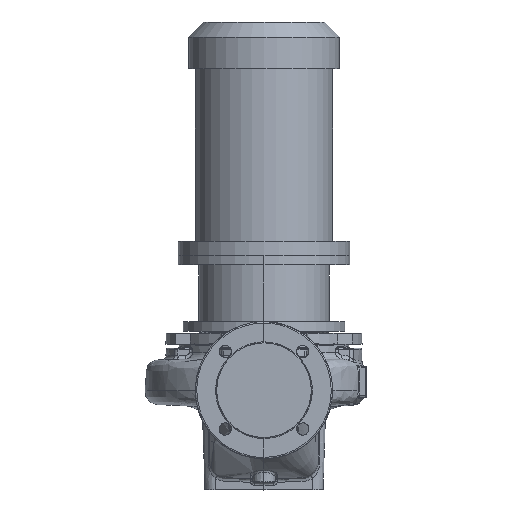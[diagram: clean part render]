
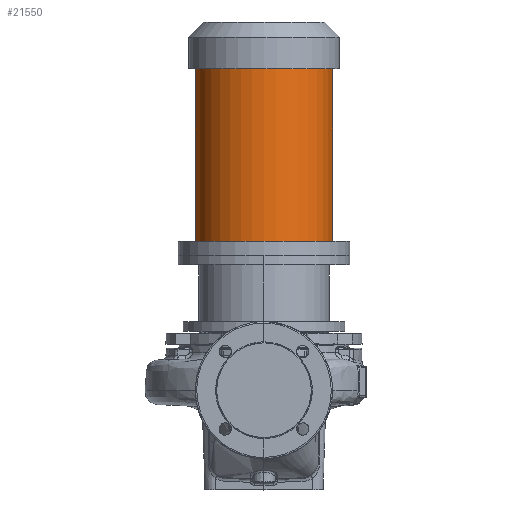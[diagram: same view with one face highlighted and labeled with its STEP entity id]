
A CAD part, top view. The second image highlights one B-rep face of the part: STEP entity #21550.
In plain terms, the highlighted cylindrical face has radius 100 mm (diameter 200 mm), a partial arc.
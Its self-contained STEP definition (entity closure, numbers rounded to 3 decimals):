
#90 = DIRECTION ( 'NONE',  ( -1., 0., 0. ) ) ;
#3658 = VERTEX_POINT ( 'NONE', #43290 ) ;
#5210 = ORIENTED_EDGE ( 'NONE', *, *, #49756, .F. ) ;
#5438 = CARTESIAN_POINT ( 'NONE',  ( 0., 197.3, 0. ) ) ;
#6033 = VECTOR ( 'NONE', #11947, 1000. ) ;
#6648 = AXIS2_PLACEMENT_3D ( 'NONE', #55923, #22026, #90 ) ;
#10351 = DIRECTION ( 'NONE',  ( 0., -1., 0. ) ) ;
#11947 = DIRECTION ( 'NONE',  ( 0., -1., 0. ) ) ;
#12264 = VERTEX_POINT ( 'NONE', #69945 ) ;
#13270 = ORIENTED_EDGE ( 'NONE', *, *, #29739, .T. ) ;
#15765 = VECTOR ( 'NONE', #60363, 1000. ) ;
#17915 = CIRCLE ( 'NONE', #36714, 100. ) ;
#21550 = ADVANCED_FACE ( 'NONE', ( #66549 ), #26419, .T. ) ;
#22026 = DIRECTION ( 'NONE',  ( 0., -1., 0. ) ) ;
#23361 = CARTESIAN_POINT ( 'NONE',  ( 100., 197.3, 0. ) ) ;
#26419 = CYLINDRICAL_SURFACE ( 'NONE', #54022, 100. ) ;
#27125 = DIRECTION ( 'NONE',  ( -1., 0., 0. ) ) ;
#29541 = LINE ( 'NONE', #23361, #6033 ) ;
#29739 = EDGE_CURVE ( 'NONE', #12264, #37517, #34896, .T. ) ;
#31581 = CARTESIAN_POINT ( 'NONE',  ( -100., 197.3, 0. ) ) ;
#32299 = CARTESIAN_POINT ( 'NONE',  ( 0., 217.3, 0. ) ) ;
#34896 = LINE ( 'NONE', #31581, #15765 ) ;
#35276 = CARTESIAN_POINT ( 'NONE',  ( -100., 217.3, 0. ) ) ;
#36714 = AXIS2_PLACEMENT_3D ( 'NONE', #32299, #71355, #38172 ) ;
#37517 = VERTEX_POINT ( 'NONE', #35276 ) ;
#38172 = DIRECTION ( 'NONE',  ( -1., 0., 0. ) ) ;
#43127 = CARTESIAN_POINT ( 'NONE',  ( 100., 217.3, 0. ) ) ;
#43290 = CARTESIAN_POINT ( 'NONE',  ( 100., 469.3, 0. ) ) ;
#46332 = ORIENTED_EDGE ( 'NONE', *, *, #57268, .F. ) ;
#49756 = EDGE_CURVE ( 'NONE', #61638, #37517, #17915, .T. ) ;
#54022 = AXIS2_PLACEMENT_3D ( 'NONE', #5438, #10351, #27125 ) ;
#54369 = EDGE_CURVE ( 'NONE', #3658, #12264, #58627, .T. ) ;
#55923 = CARTESIAN_POINT ( 'NONE',  ( 0., 469.3, 0. ) ) ;
#57268 = EDGE_CURVE ( 'NONE', #3658, #61638, #29541, .T. ) ;
#58627 = CIRCLE ( 'NONE', #6648, 100. ) ;
#59012 = ORIENTED_EDGE ( 'NONE', *, *, #54369, .T. ) ;
#60363 = DIRECTION ( 'NONE',  ( 0., -1., 0. ) ) ;
#61638 = VERTEX_POINT ( 'NONE', #43127 ) ;
#63141 = EDGE_LOOP ( 'NONE', ( #46332, #59012, #13270, #5210 ) ) ;
#66549 = FACE_OUTER_BOUND ( 'NONE', #63141, .T. ) ;
#69945 = CARTESIAN_POINT ( 'NONE',  ( -100., 469.3, 0. ) ) ;
#71355 = DIRECTION ( 'NONE',  ( 0., -1., 0. ) ) ;
